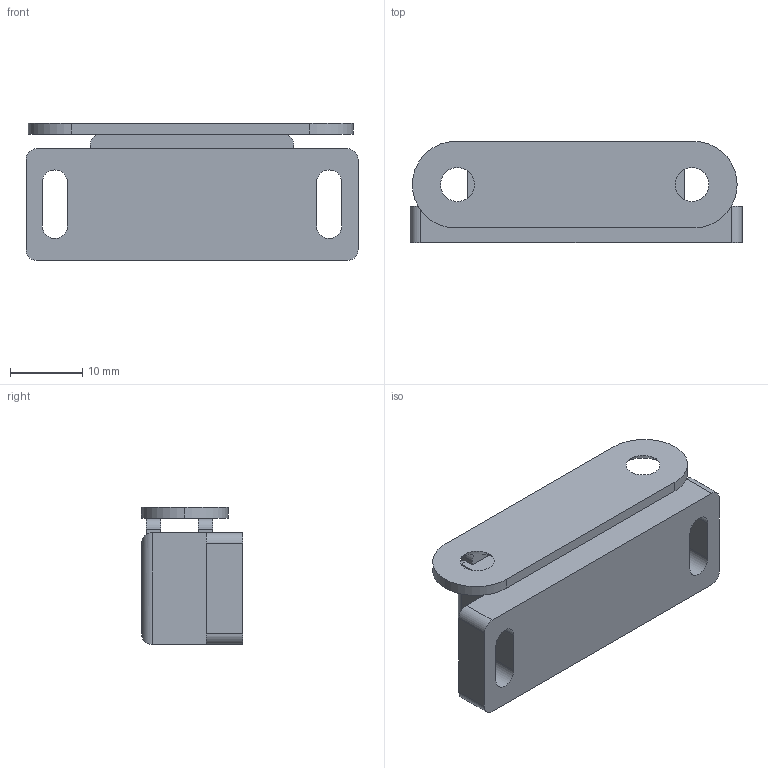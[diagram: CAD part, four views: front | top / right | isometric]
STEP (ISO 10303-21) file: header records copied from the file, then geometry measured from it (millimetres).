
FILE_DESCRIPTION (( 'STEP AP203' ), '1' );
FILE_NAME ('214-CE-DOS-B.STEP', '2015-07-09T09:27:49', ( '' ), ( '' ), 'SwSTEP 2.0', 'SolidWorks 2013', '' );
FILE_SCHEMA (( 'CONFIG_CONTROL_DESIGN' ));
Length unit declared in the file: millimetre
Products named in the file (1): 214-CE-DOS-B
Bounding box: 46 x 14 x 19 mm (x, y, z)
Surface area: 4101.4 mm2 (no closed solid volume)
Topology: 0 solids, 2 shells, 51 faces, 142 edges, 94 vertices
Faces by surface type: plane 25, cylinder 22, cone 4
Entity records: 1728 total; most frequent: CARTESIAN_POINT 300, DIRECTION 288, ORIENTED_EDGE 272, EDGE_CURVE 142, AXIS2_PLACEMENT_3D 98, VERTEX_POINT 94, VECTOR 92, LINE 92
